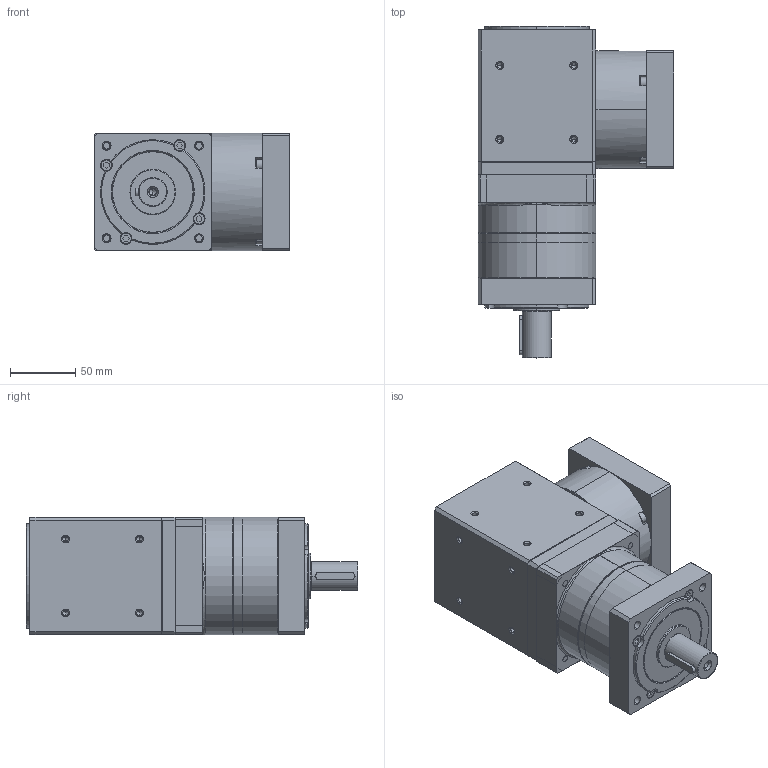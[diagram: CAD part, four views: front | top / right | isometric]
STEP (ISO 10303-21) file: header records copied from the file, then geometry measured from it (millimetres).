
FILE_DESCRIPTION (( 'STEP AP203' ), '1' );
FILE_NAME ('QLAS-090-0XX.STEP', '2012-06-22T13:57:54', ( 'render' ), ( '' ), 'SwSTEP 2.0', 'SolidWorks 2011', '' );
FILE_SCHEMA (( 'CONFIG_CONTROL_DESIGN' ));
Length unit declared in the file: millimetre
Products named in the file (1): QLAS-090-0XX
Bounding box: 150 x 254 x 90 mm (x, y, z)
Volume: 1546685.1 mm3; surface area: 436832.7 mm2
Topology: 52 solids, 52 shells, 2526 faces, 6442 edges, 4084 vertices
Faces by surface type: cylinder 998, cone 742, plane 673, bspline 113
Entity records: 88986 total; most frequent: CARTESIAN_POINT 27802, DIRECTION 13166, ORIENTED_EDGE 12656, EDGE_CURVE 6328, AXIS2_PLACEMENT_3D 5284, VERTEX_POINT 4084, EDGE_LOOP 2876, CIRCLE 2870
